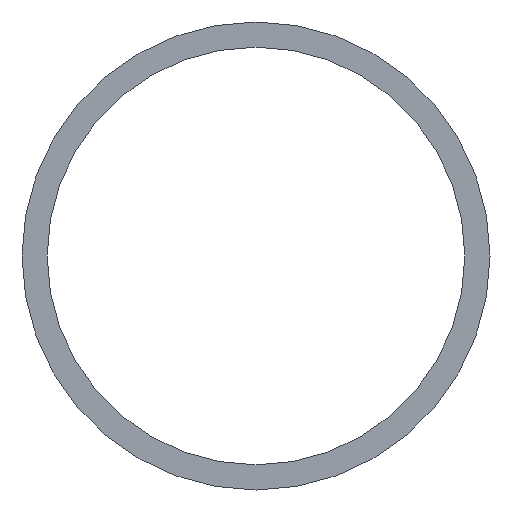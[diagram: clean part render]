
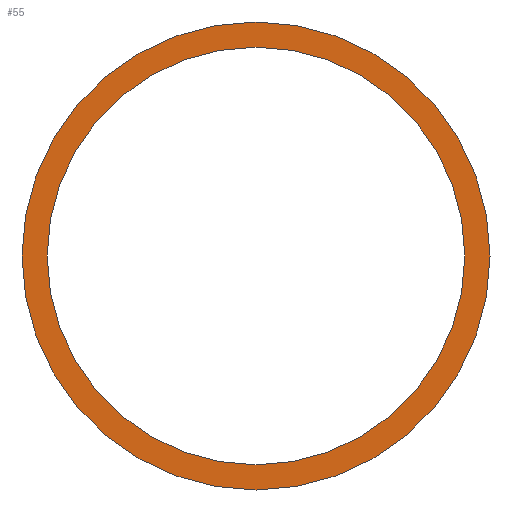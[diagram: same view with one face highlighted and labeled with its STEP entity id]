
A CAD part, front view. The second image highlights one B-rep face of the part: STEP entity #55.
In plain terms, the highlighted planar face has unit normal (0, -1, 0).
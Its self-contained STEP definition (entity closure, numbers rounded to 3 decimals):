
#12 = FACE_BOUND ( 'NONE', #99, .T. ) ;
#16 = DIRECTION ( 'NONE',  ( 0., -1., 0. ) ) ;
#19 = CARTESIAN_POINT ( 'NONE',  ( 6905., 1955., 3517.4 ) ) ;
#21 = EDGE_CURVE ( 'NONE', #103, #112, #30, .T. ) ;
#23 = DIRECTION ( 'NONE',  ( 0., 0., -1. ) ) ;
#25 = ORIENTED_EDGE ( 'NONE', *, *, #117, .T. ) ;
#30 = CIRCLE ( 'NONE', #166, 21.55 ) ;
#35 = DIRECTION ( 'NONE',  ( 0., 0., -1. ) ) ;
#42 = EDGE_LOOP ( 'NONE', ( #25, #115 ) ) ;
#47 = CARTESIAN_POINT ( 'NONE',  ( 6905., 1955., 3495.85 ) ) ;
#49 = CARTESIAN_POINT ( 'NONE',  ( 6905., 1955., 3495.85 ) ) ;
#52 = CARTESIAN_POINT ( 'NONE',  ( 6905., 1955., 3520. ) ) ;
#54 = AXIS2_PLACEMENT_3D ( 'NONE', #108, #184, #23 ) ;
#55 = ADVANCED_FACE ( 'NONE', ( #12, #152 ), #149, .T. ) ;
#62 = AXIS2_PLACEMENT_3D ( 'NONE', #128, #16, #195 ) ;
#83 = ORIENTED_EDGE ( 'NONE', *, *, #102, .F. ) ;
#84 = ORIENTED_EDGE ( 'NONE', *, *, #21, .F. ) ;
#87 = CARTESIAN_POINT ( 'NONE',  ( 6905., 1955., 3471.7 ) ) ;
#99 = EDGE_LOOP ( 'NONE', ( #84, #83 ) ) ;
#102 = EDGE_CURVE ( 'NONE', #112, #103, #153, .T. ) ;
#103 = VERTEX_POINT ( 'NONE', #19 ) ;
#106 = CIRCLE ( 'NONE', #54, 24.15 ) ;
#108 = CARTESIAN_POINT ( 'NONE',  ( 6905., 1955., 3495.85 ) ) ;
#111 = AXIS2_PLACEMENT_3D ( 'NONE', #154, #174, #35 ) ;
#112 = VERTEX_POINT ( 'NONE', #186 ) ;
#115 = ORIENTED_EDGE ( 'NONE', *, *, #157, .T. ) ;
#117 = EDGE_CURVE ( 'NONE', #208, #141, #106, .T. ) ;
#118 = DIRECTION ( 'NONE',  ( 0., -1., 0. ) ) ;
#128 = CARTESIAN_POINT ( 'NONE',  ( 6905., 1955., 3495.85 ) ) ;
#135 = DIRECTION ( 'NONE',  ( 0., 0., -1. ) ) ;
#141 = VERTEX_POINT ( 'NONE', #87 ) ;
#148 = AXIS2_PLACEMENT_3D ( 'NONE', #49, #187, #135 ) ;
#149 = PLANE ( 'NONE',  #62 ) ;
#151 = CIRCLE ( 'NONE', #111, 24.15 ) ;
#152 = FACE_OUTER_BOUND ( 'NONE', #42, .T. ) ;
#153 = CIRCLE ( 'NONE', #148, 21.55 ) ;
#154 = CARTESIAN_POINT ( 'NONE',  ( 6905., 1955., 3495.85 ) ) ;
#157 = EDGE_CURVE ( 'NONE', #141, #208, #151, .T. ) ;
#166 = AXIS2_PLACEMENT_3D ( 'NONE', #47, #118, #170 ) ;
#170 = DIRECTION ( 'NONE',  ( 0., 0., -1. ) ) ;
#174 = DIRECTION ( 'NONE',  ( 0., -1., 0. ) ) ;
#184 = DIRECTION ( 'NONE',  ( 0., -1., 0. ) ) ;
#186 = CARTESIAN_POINT ( 'NONE',  ( 6905., 1955., 3474.3 ) ) ;
#187 = DIRECTION ( 'NONE',  ( 0., -1., 0. ) ) ;
#195 = DIRECTION ( 'NONE',  ( 0., 0., -1. ) ) ;
#208 = VERTEX_POINT ( 'NONE', #52 ) ;
